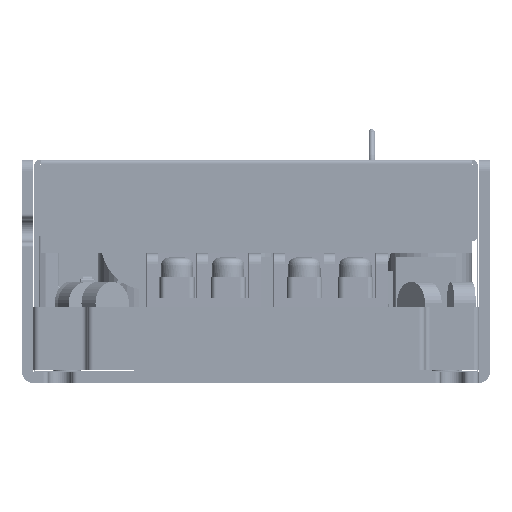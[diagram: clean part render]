
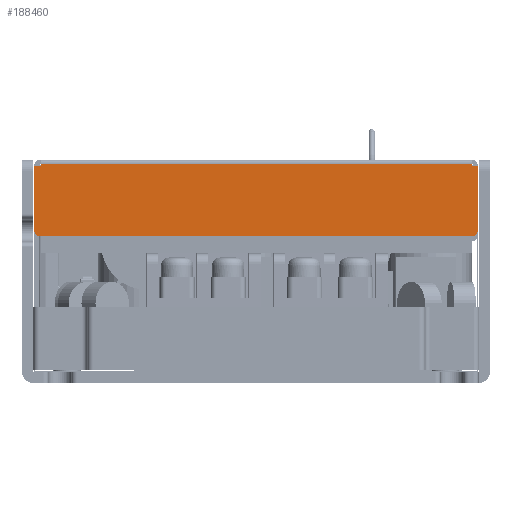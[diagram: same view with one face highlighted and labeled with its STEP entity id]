
A CAD part, left-side view. The second image highlights one B-rep face of the part: STEP entity #188460.
In plain terms, the highlighted planar face has unit normal (-1, 0, 0).
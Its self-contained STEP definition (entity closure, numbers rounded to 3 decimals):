
#114510=CARTESIAN_POINT('',(13.257,134.329,36.3));
#114520=VERTEX_POINT('',#114510);
#114550=CARTESIAN_POINT('',(13.257,134.329,35.9));
#114560=DIRECTION('',(0.,0.,1.));
#114570=VECTOR('',#114560,1.);
#114580=LINE('',#114550,#114570);
#114590=CARTESIAN_POINT('',(13.257,134.329,35.9));
#114600=VERTEX_POINT('',#114590);
#114610=EDGE_CURVE('',#114600,#114520,#114580,.T.);
#187580=CARTESIAN_POINT('',(13.257,135.629,35.9));
#187590=VERTEX_POINT('',#187580);
#187640=CARTESIAN_POINT('',(13.257,135.629,35.9));
#187650=DIRECTION('',(0.,-1.,0.));
#187660=VECTOR('',#187650,1.);
#187670=LINE('',#187640,#187660);
#187680=EDGE_CURVE('',#187590,#114600,#187670,.T.);
#187730=CARTESIAN_POINT('',(13.257,62.729,36.075));
#187740=DIRECTION('',(-1.,0.,0.));
#187750=DIRECTION('',(0.,1.,0.));
#187760=AXIS2_PLACEMENT_3D('',#187730,#187740,#187750);
#187770=PLANE('',#187760);
#187780=CARTESIAN_POINT('',(13.257,134.329,36.3));
#187790=DIRECTION('',(0.,-1.,0.));
#187800=VECTOR('',#187790,1.);
#187810=LINE('',#187780,#187800);
#187820=CARTESIAN_POINT('',(13.257,55.229,36.3));
#187830=VERTEX_POINT('',#187820);
#187840=EDGE_CURVE('',#114520,#187830,#187810,.T.);
#187850=ORIENTED_EDGE('',*,*,#187840,.F.);
#187860=CARTESIAN_POINT('',(13.257,55.229,36.3));
#187870=DIRECTION('',(0.,0.,-1.));
#187880=VECTOR('',#187870,1.);
#187890=LINE('',#187860,#187880);
#187900=CARTESIAN_POINT('',(13.257,55.229,35.9));
#187910=VERTEX_POINT('',#187900);
#187920=EDGE_CURVE('',#187830,#187910,#187890,.T.);
#187930=ORIENTED_EDGE('',*,*,#187920,.F.);
#187940=CARTESIAN_POINT('',(13.257,54.129,35.9));
#187950=DIRECTION('',(0.,1.,0.));
#187960=VECTOR('',#187950,1.);
#187970=LINE('',#187940,#187960);
#187980=CARTESIAN_POINT('',(13.257,54.129,35.9));
#187990=VERTEX_POINT('',#187980);
#188000=EDGE_CURVE('',#187990,#187910,#187970,.T.);
#188010=ORIENTED_EDGE('',*,*,#188000,.T.);
#188020=CARTESIAN_POINT('',(13.257,54.129,35.9));
#188030=DIRECTION('',(0.,0.,-1.));
#188040=VECTOR('',#188030,1.);
#188050=LINE('',#188020,#188040);
#188060=CARTESIAN_POINT('',(13.257,54.129,24.));
#188070=VERTEX_POINT('',#188060);
#188080=EDGE_CURVE('',#187990,#188070,#188050,.T.);
#188090=ORIENTED_EDGE('',*,*,#188080,.F.);
#188100=CARTESIAN_POINT('',(13.257,55.129,24.));
#188110=DIRECTION('',(-1.,0.,0.));
#188120=DIRECTION('',(0.,0.,-1.));
#188130=AXIS2_PLACEMENT_3D('',#188100,#188110,#188120);
#188140=CIRCLE('',#188130,1.);
#188150=CARTESIAN_POINT('',(13.257,55.129,23.));
#188160=VERTEX_POINT('',#188150);
#188170=EDGE_CURVE('',#188160,#188070,#188140,.T.);
#188180=ORIENTED_EDGE('',*,*,#188170,.T.);
#188190=CARTESIAN_POINT('',(13.257,55.129,23.));
#188200=DIRECTION('',(0.,1.,0.));
#188210=VECTOR('',#188200,1.);
#188220=LINE('',#188190,#188210);
#188230=CARTESIAN_POINT('',(13.257,134.629,23.));
#188240=VERTEX_POINT('',#188230);
#188250=EDGE_CURVE('',#188160,#188240,#188220,.T.);
#188260=ORIENTED_EDGE('',*,*,#188250,.F.);
#188270=CARTESIAN_POINT('',(13.257,134.629,24.));
#188280=DIRECTION('',(-1.,0.,0.));
#188290=DIRECTION('',(0.,1.,0.));
#188300=AXIS2_PLACEMENT_3D('',#188270,#188280,#188290);
#188310=CIRCLE('',#188300,1.);
#188320=CARTESIAN_POINT('',(13.257,135.629,24.));
#188330=VERTEX_POINT('',#188320);
#188340=EDGE_CURVE('',#188330,#188240,#188310,.T.);
#188350=ORIENTED_EDGE('',*,*,#188340,.T.);
#188360=CARTESIAN_POINT('',(13.257,135.629,35.9));
#188370=DIRECTION('',(0.,0.,-1.));
#188380=VECTOR('',#188370,1.);
#188390=LINE('',#188360,#188380);
#188400=EDGE_CURVE('',#187590,#188330,#188390,.T.);
#188410=ORIENTED_EDGE('',*,*,#188400,.T.);
#188420=ORIENTED_EDGE('',*,*,#187680,.F.);
#188430=ORIENTED_EDGE('',*,*,#114610,.F.);
#188440=EDGE_LOOP('',(#188430,#188420,#188410,#188350,#188260,#188180,
#188090,#188010,#187930,#187850));
#188450=FACE_OUTER_BOUND('',#188440,.T.);
#188460=ADVANCED_FACE('',(#188450),#187770,.T.);
